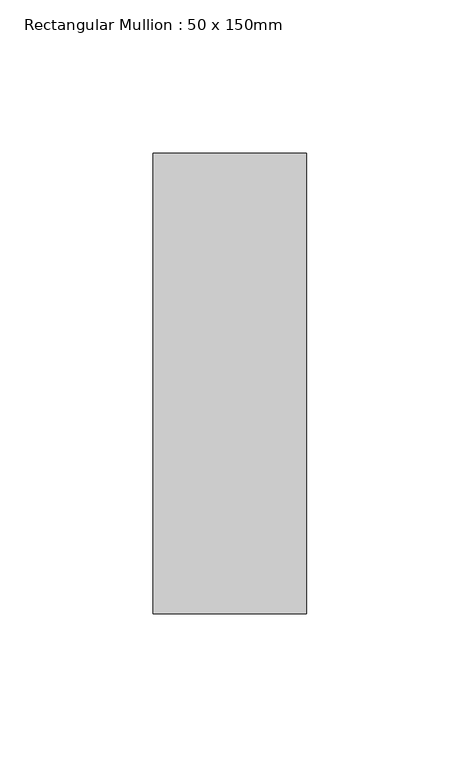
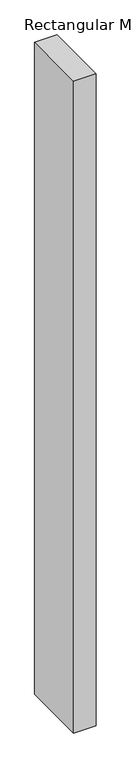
"""IFC4 building model written with IfcOpenShell, lengths in millimetres: member geometry, Rectangular Mullion : 50 x 150mm."""

from ifc_helpers import new_model, si_unit, frame, origin, place, context, project, spatial, polyline, outline, extrude, source, transform, mapped, element, save


def rectangular_mullion_50_x_150mm_10865e61(model_context):
    return source(origin(), model_context, "Body", "SweptSolid", [
        extrude(outline(polyline([(0.0, 75.0), (0.0, -75.0), (-50.0, -75.0), (-50.0, 75.0), (0.0, 75.0)])), frame((0.0, 0.0, -1529.4123655), z_axis=(0.0, 0.0, 1.0), x_axis=(1.0, 0.0, 0.0)), (0.0, 0.0, 1.0), 1529.4123655),
    ])


if __name__ == "__main__":
    model = new_model("IFC4")
    model_context = context("Model", 3, world=origin())
    ifc_project = project(units=[si_unit("LENGTHUNIT", "METRE", prefix="MILLI")], contexts=[model_context])
    site = spatial("IfcSite", under=ifc_project)
    building = spatial("IfcBuilding", under=site)
    placement = place(None, origin())
    rectangular_mullion_50_x_150mm_shape = rectangular_mullion_50_x_150mm_10865e61(model_context)
    element("IfcMember", 1, ObjectType="Rectangular Mullion : 50 x 150mm", at=placement, inside=building, context=model_context, shape_type="MappedRepresentation", body=[
        mapped(rectangular_mullion_50_x_150mm_shape, transform((0.0, 0.0, 0.0), x_axis=(1.0, 0.0, 0.0), y_axis=(0.0, 1.0, 0.0), z_axis=(0.0, 0.0, 1.0))),
    ])
    save(model, "model.ifc")
